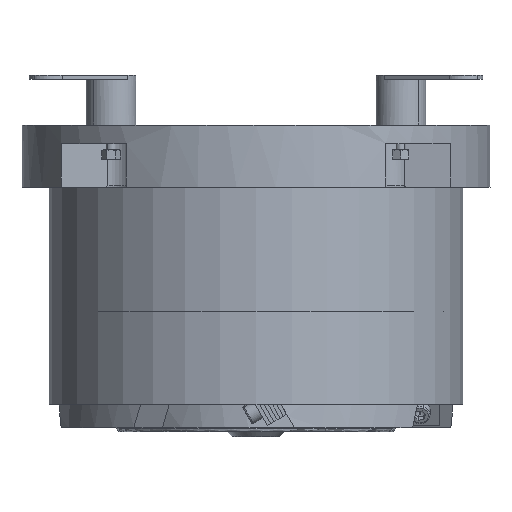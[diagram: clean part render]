
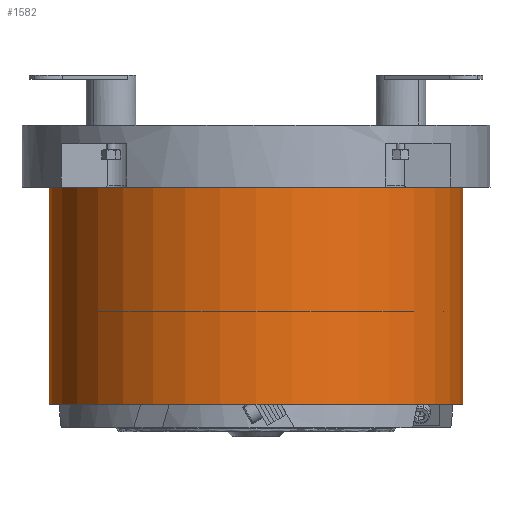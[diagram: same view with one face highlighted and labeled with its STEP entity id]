
A CAD part, front view. The second image highlights one B-rep face of the part: STEP entity #1582.
In plain terms, the highlighted cylindrical face has radius 166.5 mm (diameter 333 mm), a full revolution.
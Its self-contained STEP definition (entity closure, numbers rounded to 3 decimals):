
#590=FACE_BOUND('',#2741,.T.);
#591=FACE_BOUND('',#2742,.T.);
#1120=CYLINDRICAL_SURFACE('',#10243,166.5);
#1582=ADVANCED_FACE('',(#590,#591),#1120,.T.);
#2741=EDGE_LOOP('',(#5579));
#2742=EDGE_LOOP('',(#5580));
#5579=ORIENTED_EDGE('',*,*,#8575,.T.);
#5580=ORIENTED_EDGE('',*,*,#8576,.F.);
#7554=VERTEX_POINT('',#15954);
#7555=VERTEX_POINT('',#15956);
#8575=EDGE_CURVE('',#7554,#7554,#9578,.T.);
#8576=EDGE_CURVE('',#7555,#7555,#9579,.T.);
#9578=CIRCLE('',#10241,166.5);
#9579=CIRCLE('',#10242,166.5);
#10241=AXIS2_PLACEMENT_3D('',#15953,#11864,#11865);
#10242=AXIS2_PLACEMENT_3D('',#15955,#11866,#11867);
#10243=AXIS2_PLACEMENT_3D('',#15957,#11868,#11869);
#11864=DIRECTION('',(0.,0.,1.));
#11865=DIRECTION('',(-1.,0.,0.));
#11866=DIRECTION('',(0.,0.,1.));
#11867=DIRECTION('',(-1.,0.,0.));
#11868=DIRECTION('',(0.,0.,-1.));
#11869=DIRECTION('',(1.,0.,0.));
#15953=CARTESIAN_POINT('',(0.,0.,-225.));
#15954=CARTESIAN_POINT('',(-166.5,0.,-225.));
#15955=CARTESIAN_POINT('',(0.,0.,-50.));
#15956=CARTESIAN_POINT('',(-166.5,0.,-50.));
#15957=CARTESIAN_POINT('',(0.,0.,-50.));
